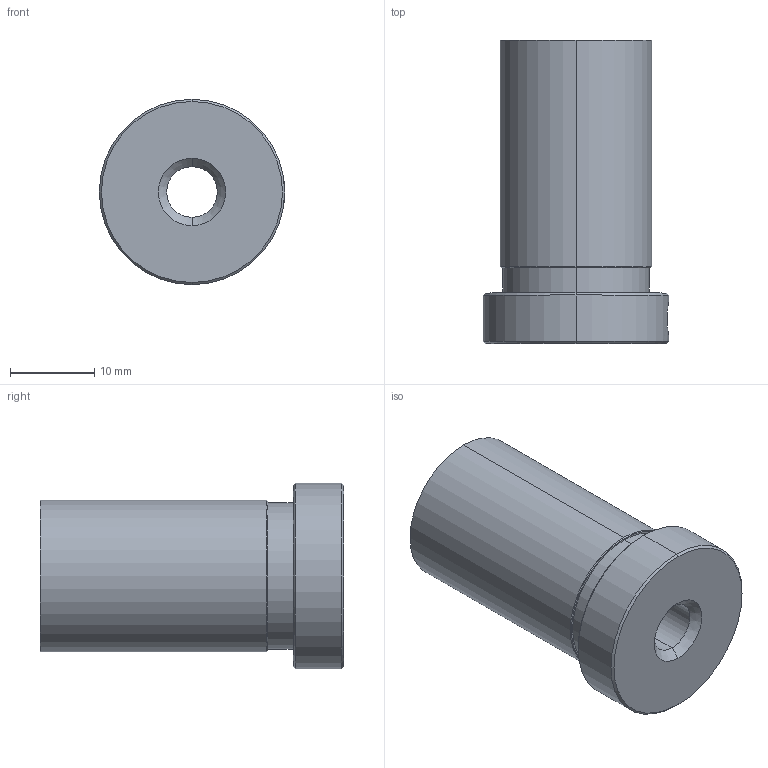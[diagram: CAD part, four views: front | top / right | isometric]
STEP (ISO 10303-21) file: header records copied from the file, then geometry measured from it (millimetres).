
FILE_DESCRIPTION (( 'STEP AP203' ), '1' );
FILE_NAME ('SP18.36.STEP', '2019-04-12T15:26:22', ( '' ), ( '' ), 'SwSTEP 2.0', 'SolidWorks 2018', '' );
FILE_SCHEMA (( 'CONFIG_CONTROL_DESIGN' ));
Length unit declared in the file: millimetre
Products named in the file (1): SP18.36
Bounding box: 22 x 36 x 22 mm (x, y, z)
Volume: 7399.6 mm3; surface area: 3848.3 mm2
Topology: 1 solids, 1 shells, 34 faces, 70 edges, 41 vertices
Faces by surface type: cone 14, cylinder 14, plane 6
Entity records: 1019 total; most frequent: CARTESIAN_POINT 200, DIRECTION 174, ORIENTED_EDGE 136, AXIS2_PLACEMENT_3D 73, EDGE_CURVE 68, EDGE_LOOP 41, VERTEX_POINT 41, CIRCLE 38
